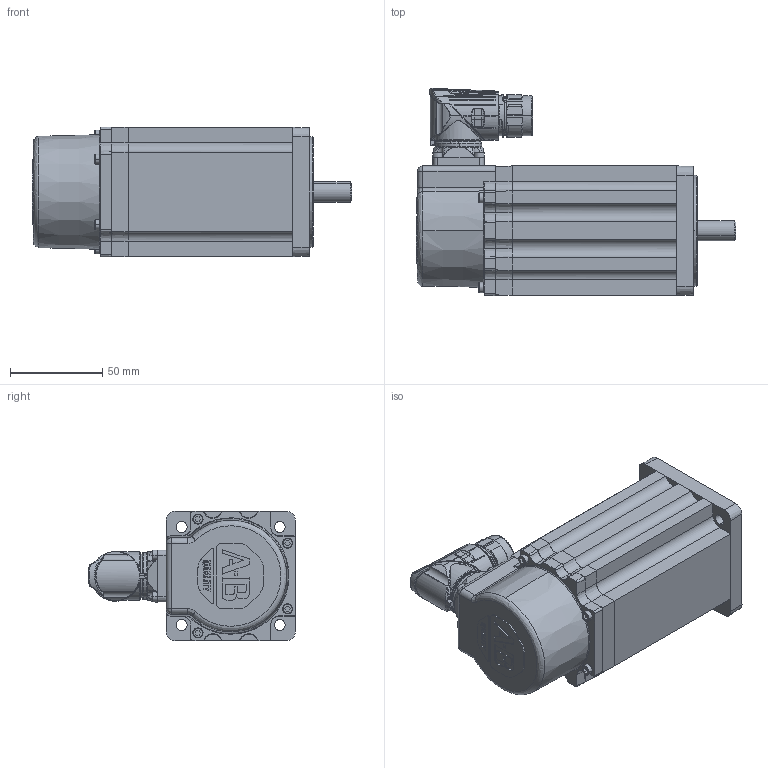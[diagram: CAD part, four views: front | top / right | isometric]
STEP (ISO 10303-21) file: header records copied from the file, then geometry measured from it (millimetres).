
FILE_DESCRIPTION (( 'STEP AP214' ), '1' );
FILE_NAME ('Rockwell Automation-$PARTNUMBER.STEP', '2014-04-01T15:26:17', ( 'Windows User' ), ( '' ), 'SwSTEP 2.0', 'SolidWorks 2014', '' );
FILE_SCHEMA (( 'AUTOMOTIVE_DESIGN' ));
Length unit declared in the file: inch
Products named in the file (26): Rockwell Automation-$PARTNUMBER_Rockwell Automation-VPL-x0752x-xKx2xx_10000206536_ASM_ANY_ASM_1; Rockwell Automation-$PARTNUMBER_Rockwell Automation-VPL-x0752x-xKx2xx_without key_3_Shaft_K_2_2; Rockwell Automation-$PARTNUMBER_Rockwell Automation-VPL-x0752x-xKx2xx_10000206535_AF0_ANY_1; Rockwell Automation-$PARTNUMBER_Rockwell Automation-VPL-x0752x-xKx2xx_REAR_ASM_ANY_ASM; Rockwell Automation-$PARTNUMBER_Rockwell Automation-VPL-x0752x-xKx2xx_10000210273_AF2_ANY_1; Rockwell Automation-$PARTNUMBER_Rockwell Automation-VPL-x0752x-xKx2xx_PRT0002; Rockwell Automation-$PARTNUMBER_Rockwell Automation-VPL-x0752x-xKx2xx_10000213398_ANY_1; Rockwell Automation-$PARTNUMBER_Rockwell Automation-VPL-x0752x-xKx2xx_PRT0001; Rockwell Automation-$PARTNUMBER_Rockwell Automation-VPL-x0752x-xKx2xx_vpl-middle-075_0752-k; Rockwell Automation-$PARTNUMBER_Rockwell Automation-VPL-x0752x-xKx2xx_10000220495_ASM_1_ANY_ASM; Rockwell Automation-$PARTNUMBER_Rockwell Automation-VPL-x0752x-xKx2xx_10000206533_AF0_ANY; Rockwell Automation-$PARTNUMBER; Rockwell Automation-$PARTNUMBER_Rockwell Automation-VPL-x0752x-xKx2xx_10000220495_ASM_ANY; Rockwell Automation-$PARTNUMBER_Rockwell Automation-VPL-x0752x-xKx2xx_10000205606_AF31_ANY; Rockwell Automation-$PARTNUMBER_Rockwell Automation-VPL-x0752x-xKx2xx_10000218021_ANY; Rockwell Automation-$PARTNUMBER_Rockwell Automation-VPL-x0752x-xKx2xx_91290A115_ANY; Rockwell Automation-$PARTNUMBER_Rockwell Automation-VPL-x0752x-xKx2xx_M23_Connector; Rockwell Automation-$PARTNUMBER_Rockwell Automation-VPL-x0752x-xKx2xx_10000014326-M23_ASM; Rockwell Automation-$PARTNUMBER_Rockwell Automation-VPL-x0752x-xKx2xx_10000014326-1; Rockwell Automation-$PARTNUMBER_Rockwell Automation-VPL-x0752x-xKx2xx_10000014325-1; Rockwell Automation-$PARTNUMBER_Rockwell Automation-VPL-x0752x-xKx2xx_10000540833; Rockwell Automation-$PARTNUMBER_Rockwell Automation-VPL-x0752x-xKx2xx_FRONT_without key_1; Rockwell Automation-$PARTNUMBER_Rockwell Automation-VPL-x0752x-xKx2xx_FRONT_1; Rockwell Automation-$PARTNUMBER_Rockwell Automation-VPL-x0752x-xKx2xx_tab; Rockwell Automation-$PARTNUMBER_Rockwell Automation-VPL-x0752x-xKx2xx_10000169222_ANY_1; Rockwell Automation-$PARTNUMBER_Rockwell Automation-VPL-x0752x-xKx2xx_vpl-075_0752_without key
Assembly tree (35 placements, depth 6):
  Rockwell Automation-$PARTNUMBER
    Rockwell Automation-$PARTNUMBER_Rockwell Automation-VPL-x0752x-xKx2xx_vpl-075_0752_without key
      Rockwell Automation-$PARTNUMBER_Rockwell Automation-VPL-x0752x-xKx2xx_vpl-middle-075_0752-k
      Rockwell Automation-$PARTNUMBER_Rockwell Automation-VPL-x0752x-xKx2xx_FRONT_without key_1
        Rockwell Automation-$PARTNUMBER_Rockwell Automation-VPL-x0752x-xKx2xx_FRONT_1
          Rockwell Automation-$PARTNUMBER_Rockwell Automation-VPL-x0752x-xKx2xx_10000213398_ANY_1
          Rockwell Automation-$PARTNUMBER_Rockwell Automation-VPL-x0752x-xKx2xx_10000206536_ASM_ANY_ASM_1
            Rockwell Automation-$PARTNUMBER_Rockwell Automation-VPL-x0752x-xKx2xx_10000210273_AF2_ANY_1
            Rockwell Automation-$PARTNUMBER_Rockwell Automation-VPL-x0752x-xKx2xx_10000206535_AF0_ANY_1
          Rockwell Automation-$PARTNUMBER_Rockwell Automation-VPL-x0752x-xKx2xx_10000169222_ANY_1  x4
      Rockwell Automation-$PARTNUMBER_Rockwell Automation-VPL-x0752x-xKx2xx_REAR_ASM_ANY_ASM
        Rockwell Automation-$PARTNUMBER_Rockwell Automation-VPL-x0752x-xKx2xx_M23_Connector
          Rockwell Automation-$PARTNUMBER_Rockwell Automation-VPL-x0752x-xKx2xx_10000540833
          Rockwell Automation-$PARTNUMBER_Rockwell Automation-VPL-x0752x-xKx2xx_10000014325-1
          Rockwell Automation-$PARTNUMBER_Rockwell Automation-VPL-x0752x-xKx2xx_10000014326-M23_ASM
            Rockwell Automation-$PARTNUMBER_Rockwell Automation-VPL-x0752x-xKx2xx_10000014326-1
        Rockwell Automation-$PARTNUMBER_Rockwell Automation-VPL-x0752x-xKx2xx_91290A115_ANY  x4
        Rockwell Automation-$PARTNUMBER_Rockwell Automation-VPL-x0752x-xKx2xx_10000218021_ANY  x2
        Rockwell Automation-$PARTNUMBER_Rockwell Automation-VPL-x0752x-xKx2xx_10000220495_ASM_1_ANY_ASM
          Rockwell Automation-$PARTNUMBER_Rockwell Automation-VPL-x0752x-xKx2xx_10000205606_AF31_ANY
          Rockwell Automation-$PARTNUMBER_Rockwell Automation-VPL-x0752x-xKx2xx_10000220495_ASM_ANY  x2
          Rockwell Automation-$PARTNUMBER_Rockwell Automation-VPL-x0752x-xKx2xx_10000206533_AF0_ANY
        Rockwell Automation-$PARTNUMBER_Rockwell Automation-VPL-x0752x-xKx2xx_PRT0001  x4
        Rockwell Automation-$PARTNUMBER_Rockwell Automation-VPL-x0752x-xKx2xx_PRT0002
      Rockwell Automation-$PARTNUMBER_Rockwell Automation-VPL-x0752x-xKx2xx_without key_3_Shaft_K_2_2
  Rockwell Automation-$PARTNUMBER_Rockwell Automation-VPL-x0752x-xKx2xx_tab
Bounding box: 172.9 x 112.23 x 70.31 mm (x, y, z)
Volume: 296768.1 mm3; surface area: 166415.8 mm2
Topology: 21 solids, 41 shells, 3121 faces, 8572 edges, 5551 vertices
Faces by surface type: cylinder 1014, plane 935, bspline 787, cone 383, torus 2
Entity records: 160150 total; most frequent: CARTESIAN_POINT 87141, ORIENTED_EDGE 14393, DIRECTION 8507, EDGE_CURVE 7215, VERTEX_POINT 4734, B_SPLINE_CURVE_WITH_KNOTS 3657, AXIS2_PLACEMENT_3D 3190, EDGE_LOOP 2765
